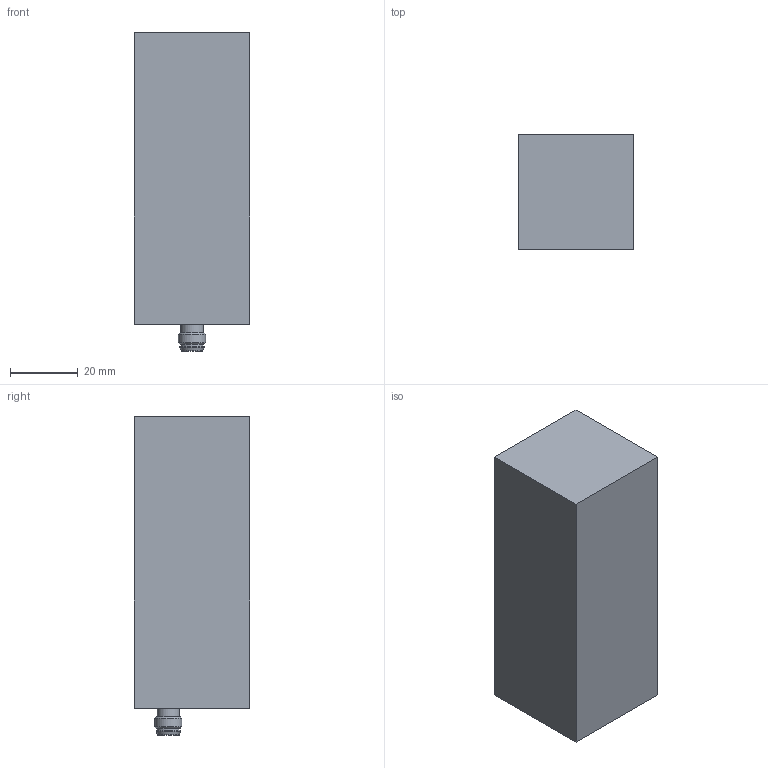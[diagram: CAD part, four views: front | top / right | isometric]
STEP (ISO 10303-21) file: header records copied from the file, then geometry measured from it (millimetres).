
FILE_DESCRIPTION( ( 'STEP AP203' ), '1' );
FILE_NAME( 'x:/temp/worker_5/temp/app_41_720190813133831808068761c93b02f_000000_00_00_000000/format_0/Buechner S148-617-M-24-M84.stp', '2019-08-13T11:38:32', ( '' ), ( '' ), ' ', 'PARTsolutions', ' ' );
FILE_SCHEMA( ( 'CONFIG_CONTROL_DESIGN' ) );
Length unit declared in the file: millimetre
Products named in the file (1): _Buechner S148-617-M-24-M84
Bounding box: 34 x 34 x 94 mm (x, y, z)
Volume: 99575.1 mm3; surface area: 14421.1 mm2
Topology: 1 solids, 1 shells, 32 faces, 68 edges, 45 vertices
Faces by surface type: plane 13, cylinder 12, sphere 4, cone 3
Full cylindrical faces by diameter (mm): 1 x4, 2.459 x2, 5.8 x1, 6.4 x1, 6.6 x2, 7.2 x1, 8 x1
Entity records: 736 total; most frequent: DIRECTION 130, CARTESIAN_POINT 109, ORIENTED_EDGE 76, AXIS2_PLACEMENT_3D 59, EDGE_LOOP 58, FACE_OUTER_BOUND 44, VERTEX_POINT 38, EDGE_CURVE 38
